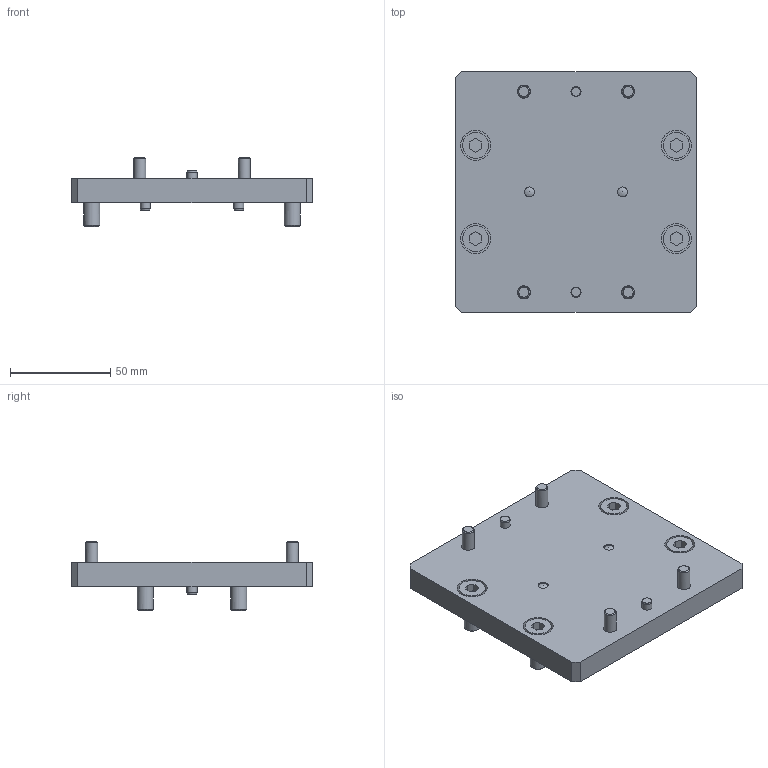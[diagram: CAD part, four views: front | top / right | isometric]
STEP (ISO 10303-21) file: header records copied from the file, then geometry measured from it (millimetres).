
FILE_DESCRIPTION( ( 'STEP AP214' ), '1' );
FILE_NAME( 'U:/Etudes/Top Solid/BIBLIO 3D AVM/STEP/N_ELECTRIQUE/Linéaires/Accessoires/8319110.step', '2006-07-05T08:27:07', ( ' ' ), ( ' ' ), 'XStep 1.0', ' ', ' ' );
FILE_SCHEMA( ( 'automotive_design' ) );
Length unit declared in the file: metre
Products named in the file (1): 1
Bounding box: 120 x 120 x 34.5 mm (x, y, z)
Volume: 173345.9 mm3; surface area: 43391.5 mm2
Topology: 1 solids, 1 shells, 166 faces, 362 edges, 242 vertices
Faces by surface type: plane 102, cylinder 48, cone 12, bspline 4
Full cylindrical faces by diameter (mm): 5 x8, 6 x8, 6.6 x4, 8 x8, 9 x4, 10 x4, 11 x4, 13 x4, 15 x4
Entity records: 5644 total; most frequent: CARTESIAN_POINT 1023, DIRECTION 678, ORIENTED_EDGE 536, EDGE_LOOP 274, EDGE_CURVE 268, AXIS2_PLACEMENT_3D 255, VERTEX_POINT 216, FACE_OUTER_BOUND 214
